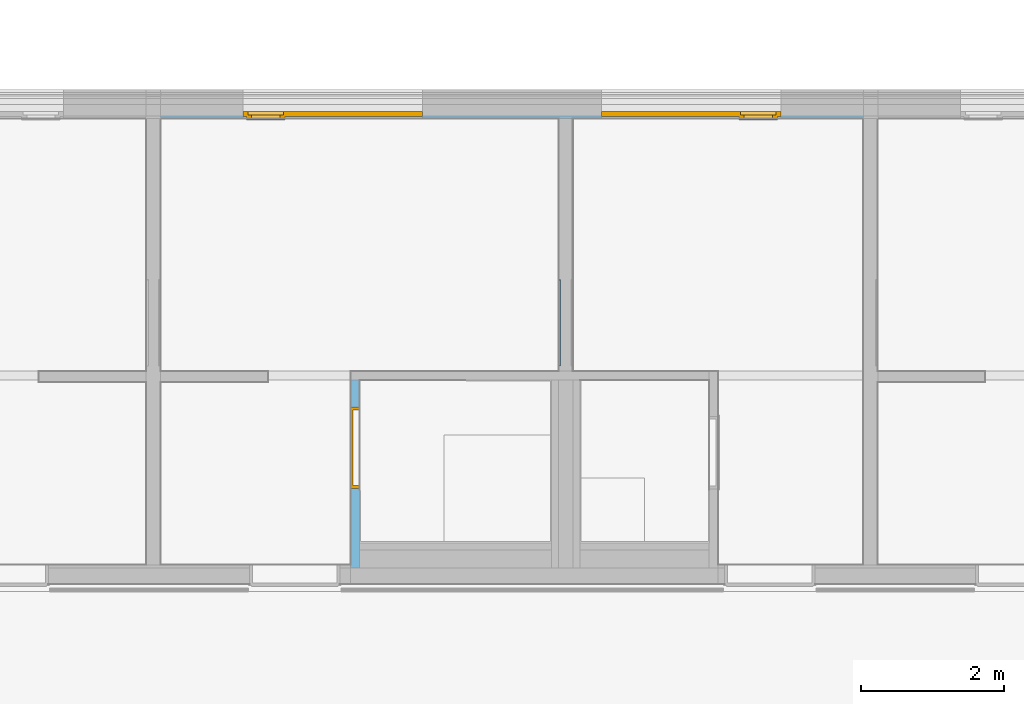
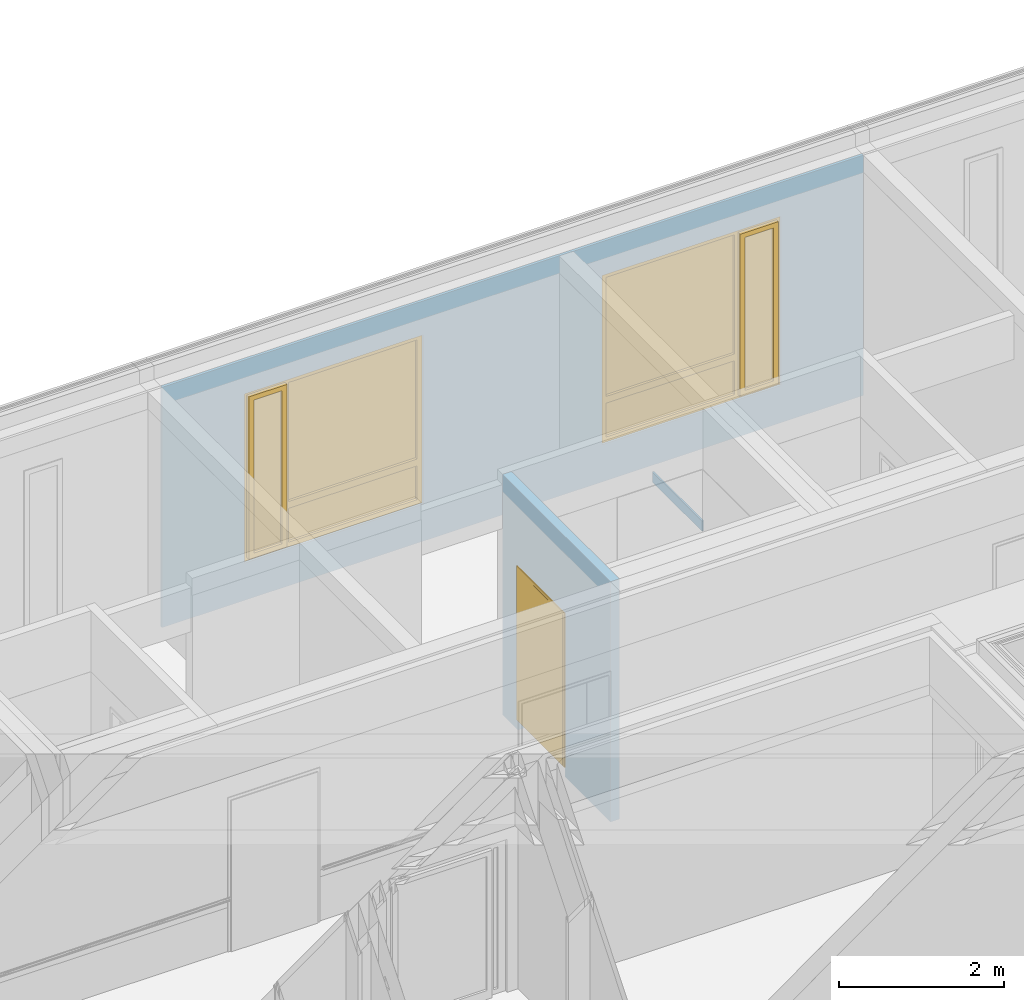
# One storey, part 101 of 222: 2 windows, 1 door, 1 wall, 3 openings, plus 2 elements that do not belong to this part.
"""IFC4 building model written with IfcOpenShell, lengths in metres."""

from ifc_helpers import new_model, entity, si_unit, converted_unit, derived_unit, frame, frame_2d, origin, origin_with_axes, place, context, subcontext, project, spatial, polyline, rectangle, outline, extrude, closed_shell, open_shell, faceted_brep, surface_model, source, transform, mapped, material, type_object, element, fill, save


model = new_model("IFC4")

# Units and contexts
model_context = context("Model", 3, precision=1e-05, world=origin())
body_context = subcontext(model_context, "Body", "Model", "MODEL_VIEW")
ifc_project = project(units=[si_unit("LENGTHUNIT", "METRE"), si_unit("AREAUNIT", "SQUARE_METRE"), si_unit("VOLUMEUNIT", "CUBIC_METRE"), si_unit("MASSUNIT", "GRAM", prefix="KILO"), converted_unit("PLANEANGLEUNIT", "DEGREE", entity("IfcPlaneAngleMeasure", 0.0174532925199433), si_unit("PLANEANGLEUNIT", "RADIAN"), dimensions=[0, 0, 0, 0, 0, 0, 0]), derived_unit("THERMALTRANSMITTANCEUNIT", [(si_unit("POWERUNIT", "WATT"), 1), (si_unit("THERMODYNAMICTEMPERATUREUNIT", "KELVIN"), -1), (si_unit("LENGTHUNIT", "METRE"), -2)]), derived_unit("VOLUMETRICFLOWRATEUNIT", [(si_unit("LENGTHUNIT", "METRE"), 3), (converted_unit("TIMEUNIT", "hour", entity("IfcTimeMeasure", 3600.0), si_unit("TIMEUNIT", "SECOND"), dimensions=[0, 0, 1, 0, 0, 0, 0]), -1), (si_unit("LENGTHUNIT", "METRE"), -1)])], contexts=[model_context])

# Site, building, storey
site_placement = place(None, origin())
site = spatial("IfcSite", under=ifc_project, at=site_placement, Name="Psychiatrie Neubau Wunstorf", CompositionType="ELEMENT")
building_placement = place(site_placement, origin())
building = spatial("IfcBuilding", under=site, at=building_placement, Name="Neubau H2 Stationsgebäude", CompositionType="ELEMENT")
storey_placement = place(building_placement, frame((0.0, 0.0, 3.6)))
storey = spatial("IfcBuildingStorey", under=building, at=storey_placement, Name="H2 Ebene +1", CompositionType="ELEMENT", Elevation=3.6)

# Wall, openings, windows
ifc_material_1 = material(Name="WA-LB")
wall_1_placement = place(storey_placement, frame((10.1, 30.614, 0.0)))
wall_1 = element("IfcWall", 1, at=wall_1_placement, inside=storey, material=ifc_material_1, context=body_context, shape_type="SweptSolid", body=[
    extrude(rectangle(XDim=9.8, YDim=0.036, at=frame_2d((4.9, 0.018), x_axis=(1.0, 0.0))), origin_with_axes(), (0.0, 0.0, 1.0), 3.55),
])
opening_1_placement = place(wall_1_placement, frame((1.15, 0.0, 0.55), z_axis=(0.0, 1.0, 0.0), x_axis=(0.0, 0.0, 1.0)))
opening_1 = element("IfcOpeningElement", 2, at=opening_1_placement, cuts=wall_1, Name="Fensteröffnung", ObjectType="Opening", context=body_context, shape_type="SweptSolid", body=[
    extrude(outline(polyline([(2.5, 2.5), (2.5, 0.0), (0.0, 0.0), (0.0, 2.5), (2.5, 2.5)])), origin_with_axes(), (0.0, 0.0, 1.0), 0.036),
])
opening_2_placement = place(wall_1_placement, frame((6.15, 0.0, 0.55), z_axis=(0.0, 1.0, 0.0), x_axis=(0.0, 0.0, 1.0)))
opening_2 = element("IfcOpeningElement", 3, at=opening_2_placement, cuts=wall_1, Name="Fensteröffnung", ObjectType="Opening", context=body_context, shape_type="SweptSolid", body=[
    extrude(outline(polyline([(2.5, 2.5), (2.5, 0.0), (0.0, 0.0), (0.0, 2.5), (2.5, 2.5)])), origin_with_axes(), (0.0, 0.0, 1.0), 0.036),
])
shared_shape_1 = source(origin_with_axes(), body_context, "Body", "SurfaceModel", [
    surface_model("IfcShellBasedSurfaceModel", [(0.0, 0.0, 2.5), (0.07, 0.0, 2.5), (0.07, 0.0, 0.0), (0.0, 0.0, 0.0), (0.0, 0.0699999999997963, 0.0), (0.07, 0.0699999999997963, 0.0), (0.07, 0.0699999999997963, 2.5), (0.0, 0.0699999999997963, 2.5)], [closed_shell([[[0, 1, 2, 3]], [[4, 5, 6, 7]], [[3, 4, 7, 0]], [[2, 5, 4, 3]], [[1, 6, 5, 2]], [[0, 7, 6, 1]]], orient=[[False], [False], [False], [False], [False], [False]])]),
    surface_model("IfcShellBasedSurfaceModel", [(2.43, 0.0, 2.5), (2.5, 0.0, 2.5), (2.5, 0.0, 0.0), (2.43, 0.0, 0.0), (2.43, 0.0699999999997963, 0.0), (2.5, 0.0699999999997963, 0.0), (2.5, 0.0699999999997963, 2.5), (2.43, 0.0699999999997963, 2.5)], [closed_shell([[[0, 1, 2, 3]], [[4, 5, 6, 7]], [[3, 4, 7, 0]], [[2, 5, 4, 3]], [[1, 6, 5, 2]], [[0, 7, 6, 1]]], orient=[[False], [False], [False], [False], [False], [False]])]),
    surface_model("IfcShellBasedSurfaceModel", [(0.07, 0.0, 0.07), (2.43, 0.0, 0.07), (2.43, 0.0, 0.0), (0.07, 0.0, 0.0), (0.07, 0.0699999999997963, 0.0), (2.43, 0.0699999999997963, 0.0), (2.43, 0.0699999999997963, 0.07), (0.07, 0.0699999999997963, 0.07)], [closed_shell([[[0, 1, 2, 3]], [[4, 5, 6, 7]], [[3, 4, 7, 0]], [[2, 5, 4, 3]], [[1, 6, 5, 2]], [[0, 7, 6, 1]]], orient=[[False], [False], [False], [False], [False], [False]])]),
    surface_model("IfcShellBasedSurfaceModel", [(0.07, 0.0, 2.5), (2.43, 0.0, 2.5), (2.43, 0.0, 2.43), (0.07, 0.0, 2.43), (0.07, 0.0699999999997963, 2.43), (2.43, 0.0699999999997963, 2.43), (2.43, 0.0699999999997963, 2.5), (0.07, 0.0699999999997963, 2.5)], [closed_shell([[[0, 1, 2, 3]], [[4, 5, 6, 7]], [[3, 4, 7, 0]], [[2, 5, 4, 3]], [[1, 6, 5, 2]], [[0, 7, 6, 1]]], orient=[[False], [False], [False], [False], [False], [False]])]),
    surface_model("IfcShellBasedSurfaceModel", [(0.565714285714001, 0.0, 2.43), (0.635714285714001, 0.0, 2.43), (0.635714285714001, 0.0, 0.07), (0.565714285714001, 0.0, 0.07), (0.565714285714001, 0.0699999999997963, 0.07), (0.635714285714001, 0.0699999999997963, 0.07), (0.635714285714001, 0.0699999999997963, 2.43), (0.565714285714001, 0.0699999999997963, 2.43)], [closed_shell([[[0, 1, 2, 3]], [[4, 5, 6, 7]], [[3, 4, 7, 0]], [[2, 5, 4, 3]], [[1, 6, 5, 2]], [[0, 7, 6, 1]]], orient=[[False], [False], [False], [False], [False], [False]])]),
    surface_model("IfcShellBasedSurfaceModel", [(0.05, -0.05, 2.45), (0.12, -0.05, 2.45), (0.12, -0.05, 0.05), (0.05, -0.05, 0.05), (0.05, 0.0199999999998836, 0.05), (0.12, 0.0199999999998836, 0.05), (0.12, 0.0199999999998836, 2.45), (0.05, 0.0199999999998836, 2.45)], [closed_shell([[[0, 1, 2, 3]], [[4, 5, 6, 7]], [[3, 4, 7, 0]], [[2, 5, 4, 3]], [[1, 6, 5, 2]], [[0, 7, 6, 1]]], orient=[[False], [False], [False], [False], [False], [False]])]),
    surface_model("IfcShellBasedSurfaceModel", [(0.515714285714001, -0.05, 2.45), (0.585714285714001, -0.05, 2.45), (0.585714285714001, -0.05, 0.05), (0.515714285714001, -0.05, 0.05), (0.515714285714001, 0.0199999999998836, 0.05), (0.585714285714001, 0.0199999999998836, 0.05), (0.585714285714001, 0.0199999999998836, 2.45), (0.515714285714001, 0.0199999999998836, 2.45)], [closed_shell([[[0, 1, 2, 3]], [[4, 5, 6, 7]], [[3, 4, 7, 0]], [[2, 5, 4, 3]], [[1, 6, 5, 2]], [[0, 7, 6, 1]]], orient=[[False], [False], [False], [False], [False], [False]])]),
    surface_model("IfcShellBasedSurfaceModel", [(0.12, -0.05, 0.12), (0.515714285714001, -0.05, 0.12), (0.515714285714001, -0.05, 0.05), (0.12, -0.05, 0.05), (0.12, 0.0199999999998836, 0.05), (0.515714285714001, 0.0199999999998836, 0.05), (0.515714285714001, 0.0199999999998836, 0.12), (0.12, 0.0199999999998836, 0.12)], [closed_shell([[[0, 1, 2, 3]], [[4, 5, 6, 7]], [[3, 4, 7, 0]], [[2, 5, 4, 3]], [[1, 6, 5, 2]], [[0, 7, 6, 1]]], orient=[[False], [False], [False], [False], [False], [False]])]),
    surface_model("IfcShellBasedSurfaceModel", [(0.12, -0.05, 2.45), (0.515714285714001, -0.05, 2.45), (0.515714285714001, -0.05, 2.38), (0.12, -0.05, 2.38), (0.12, 0.0199999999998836, 2.38), (0.515714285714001, 0.0199999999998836, 2.38), (0.515714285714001, 0.0199999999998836, 2.45), (0.12, 0.0199999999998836, 2.45)], [closed_shell([[[0, 1, 2, 3]], [[4, 5, 6, 7]], [[3, 4, 7, 0]], [[2, 5, 4, 3]], [[1, 6, 5, 2]], [[0, 7, 6, 1]]], orient=[[False], [False], [False], [False], [False], [False]])]),
    surface_model("IfcShellBasedSurfaceModel", [(0.635714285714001, 0.0, 0.67), (2.43, 0.0, 0.67), (2.43, 0.0, 0.57), (0.635714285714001, 0.0, 0.57), (0.635714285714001, 0.0699999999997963, 0.57), (2.43, 0.0699999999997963, 0.57), (2.43, 0.0699999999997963, 0.67), (0.635714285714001, 0.0699999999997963, 0.67)], [closed_shell([[[0, 1, 2, 3]], [[4, 5, 6, 7]], [[3, 4, 7, 0]], [[2, 5, 4, 3]], [[1, 6, 5, 2]], [[0, 7, 6, 1]]], orient=[[False], [False], [False], [False], [False], [False]])]),
    surface_model("IfcShellBasedSurfaceModel", [(0.12, -0.0150000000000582, 0.12), (0.12, -0.0150000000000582, 2.38), (0.515714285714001, -0.0150000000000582, 2.38), (0.515714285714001, -0.0150000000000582, 0.12)], [open_shell([[[0, 1, 2, 3]]], orient=[[False]])]),
    surface_model("IfcShellBasedSurfaceModel", [(0.635714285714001, 0.0349999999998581, 0.07), (0.635714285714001, 0.0349999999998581, 0.57), (2.43, 0.0349999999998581, 0.57), (2.43, 0.0349999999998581, 0.07)], [open_shell([[[0, 1, 2, 3]]], orient=[[False]])]),
    surface_model("IfcShellBasedSurfaceModel", [(0.635714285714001, 0.0349999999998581, 0.67), (0.635714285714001, 0.0349999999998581, 2.43), (2.43, 0.0349999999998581, 2.43), (2.43, 0.0349999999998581, 0.67)], [open_shell([[[0, 1, 2, 3]]], orient=[[False]])]),
])
window_1_placement = place(opening_1_placement, frame((0.0, 0.0, 0.03), z_axis=(1.0, 0.0, 0.0), x_axis=(0.0, 1.0, 0.0)))
window_1 = element("IfcWindow", 4, at=window_1_placement, inside=storey, Name="Fenster", OverallHeight=2.5, OverallWidth=2.5, PartitioningType="USERDEFINED", PredefinedType="WINDOW", context=body_context, shape_type="MappedRepresentation", body=[
    mapped(shared_shape_1, transform((0.0, 0.0, 0.0), x_axis=(1.0, 0.0, 0.0), y_axis=(0.0, 1.0, 0.0), z_axis=(0.0, 0.0, 1.0), scale=1.0)),
])
fill(opening_1, window_1)
shared_shape_2 = source(origin_with_axes(), body_context, "Body", "SurfaceModel", [
    surface_model("IfcShellBasedSurfaceModel", [(2.5, 0.0, 2.5), (2.5, 0.0, 0.0), (2.43, 0.0, 0.0), (2.43, 0.0, 2.5), (2.5, 0.0699999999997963, 0.0), (2.5, 0.0699999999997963, 2.5), (2.43, 0.0699999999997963, 2.5), (2.43, 0.0699999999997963, 0.0)], [closed_shell([[[0, 1, 2, 3]], [[4, 5, 6, 7]], [[1, 0, 5, 4]], [[2, 1, 4, 7]], [[3, 2, 7, 6]], [[0, 3, 6, 5]]], orient=[[False], [False], [False], [False], [False], [False]])]),
    surface_model("IfcShellBasedSurfaceModel", [(0.07, 0.0, 2.5), (0.07, 0.0, 0.0), (0.0, 0.0, 0.0), (0.0, 0.0, 2.5), (0.07, 0.0699999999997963, 0.0), (0.07, 0.0699999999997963, 2.5), (0.0, 0.0699999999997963, 2.5), (0.0, 0.0699999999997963, 0.0)], [closed_shell([[[0, 1, 2, 3]], [[4, 5, 6, 7]], [[1, 0, 5, 4]], [[2, 1, 4, 7]], [[3, 2, 7, 6]], [[0, 3, 6, 5]]], orient=[[False], [False], [False], [False], [False], [False]])]),
    surface_model("IfcShellBasedSurfaceModel", [(2.43, 0.0, 0.07), (2.43, 0.0, 0.0), (0.07, 0.0, 0.0), (0.07, 0.0, 0.07), (2.43, 0.0699999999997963, 0.0), (2.43, 0.0699999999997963, 0.07), (0.07, 0.0699999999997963, 0.07), (0.07, 0.0699999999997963, 0.0)], [closed_shell([[[0, 1, 2, 3]], [[4, 5, 6, 7]], [[1, 0, 5, 4]], [[2, 1, 4, 7]], [[3, 2, 7, 6]], [[0, 3, 6, 5]]], orient=[[False], [False], [False], [False], [False], [False]])]),
    surface_model("IfcShellBasedSurfaceModel", [(2.43, 0.0, 2.5), (2.43, 0.0, 2.43), (0.07, 0.0, 2.43), (0.07, 0.0, 2.5), (2.43, 0.0699999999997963, 2.43), (2.43, 0.0699999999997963, 2.5), (0.07, 0.0699999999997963, 2.5), (0.07, 0.0699999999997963, 2.43)], [closed_shell([[[0, 1, 2, 3]], [[4, 5, 6, 7]], [[1, 0, 5, 4]], [[2, 1, 4, 7]], [[3, 2, 7, 6]], [[0, 3, 6, 5]]], orient=[[False], [False], [False], [False], [False], [False]])]),
    surface_model("IfcShellBasedSurfaceModel", [(1.934285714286, 0.0, 2.43), (1.934285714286, 0.0, 0.07), (1.864285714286, 0.0, 0.07), (1.864285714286, 0.0, 2.43), (1.934285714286, 0.0699999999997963, 0.07), (1.934285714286, 0.0699999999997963, 2.43), (1.864285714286, 0.0699999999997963, 2.43), (1.864285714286, 0.0699999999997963, 0.07)], [closed_shell([[[0, 1, 2, 3]], [[4, 5, 6, 7]], [[1, 0, 5, 4]], [[2, 1, 4, 7]], [[3, 2, 7, 6]], [[0, 3, 6, 5]]], orient=[[False], [False], [False], [False], [False], [False]])]),
    surface_model("IfcShellBasedSurfaceModel", [(2.45, -0.05, 2.45), (2.45, -0.05, 0.05), (2.38, -0.05, 0.05), (2.38, -0.05, 2.45), (2.45, 0.0199999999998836, 0.05), (2.45, 0.0199999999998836, 2.45), (2.38, 0.0199999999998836, 2.45), (2.38, 0.0199999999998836, 0.05)], [closed_shell([[[0, 1, 2, 3]], [[4, 5, 6, 7]], [[1, 0, 5, 4]], [[2, 1, 4, 7]], [[3, 2, 7, 6]], [[0, 3, 6, 5]]], orient=[[False], [False], [False], [False], [False], [False]])]),
    surface_model("IfcShellBasedSurfaceModel", [(1.984285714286, -0.05, 2.45), (1.984285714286, -0.05, 0.05), (1.914285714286, -0.05, 0.05), (1.914285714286, -0.05, 2.45), (1.984285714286, 0.0199999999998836, 0.05), (1.984285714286, 0.0199999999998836, 2.45), (1.914285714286, 0.0199999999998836, 2.45), (1.914285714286, 0.0199999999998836, 0.05)], [closed_shell([[[0, 1, 2, 3]], [[4, 5, 6, 7]], [[1, 0, 5, 4]], [[2, 1, 4, 7]], [[3, 2, 7, 6]], [[0, 3, 6, 5]]], orient=[[False], [False], [False], [False], [False], [False]])]),
    surface_model("IfcShellBasedSurfaceModel", [(2.38, -0.05, 0.12), (2.38, -0.05, 0.05), (1.984285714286, -0.05, 0.05), (1.984285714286, -0.05, 0.12), (2.38, 0.0199999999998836, 0.05), (2.38, 0.0199999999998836, 0.12), (1.984285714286, 0.0199999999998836, 0.12), (1.984285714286, 0.0199999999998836, 0.05)], [closed_shell([[[0, 1, 2, 3]], [[4, 5, 6, 7]], [[1, 0, 5, 4]], [[2, 1, 4, 7]], [[3, 2, 7, 6]], [[0, 3, 6, 5]]], orient=[[False], [False], [False], [False], [False], [False]])]),
    surface_model("IfcShellBasedSurfaceModel", [(2.38, -0.05, 2.45), (2.38, -0.05, 2.38), (1.984285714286, -0.05, 2.38), (1.984285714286, -0.05, 2.45), (2.38, 0.0199999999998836, 2.38), (2.38, 0.0199999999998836, 2.45), (1.984285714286, 0.0199999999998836, 2.45), (1.984285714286, 0.0199999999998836, 2.38)], [closed_shell([[[0, 1, 2, 3]], [[4, 5, 6, 7]], [[1, 0, 5, 4]], [[2, 1, 4, 7]], [[3, 2, 7, 6]], [[0, 3, 6, 5]]], orient=[[False], [False], [False], [False], [False], [False]])]),
    surface_model("IfcShellBasedSurfaceModel", [(1.864285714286, 0.0, 0.67), (1.864285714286, 0.0, 0.57), (0.07, 0.0, 0.57), (0.07, 0.0, 0.67), (1.864285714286, 0.0699999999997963, 0.57), (1.864285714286, 0.0699999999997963, 0.67), (0.07, 0.0699999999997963, 0.67), (0.07, 0.0699999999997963, 0.57)], [closed_shell([[[0, 1, 2, 3]], [[4, 5, 6, 7]], [[1, 0, 5, 4]], [[2, 1, 4, 7]], [[3, 2, 7, 6]], [[0, 3, 6, 5]]], orient=[[False], [False], [False], [False], [False], [False]])]),
    surface_model("IfcShellBasedSurfaceModel", [(2.38, -0.0150000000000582, 0.12), (1.984285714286, -0.0150000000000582, 0.12), (1.984285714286, -0.0150000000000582, 2.38), (2.38, -0.0150000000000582, 2.38)], [open_shell([[[0, 1, 2, 3]]], orient=[[False]])]),
    surface_model("IfcShellBasedSurfaceModel", [(1.864285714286, 0.0349999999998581, 0.07), (0.07, 0.0349999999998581, 0.07), (0.07, 0.0349999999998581, 0.57), (1.864285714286, 0.0349999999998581, 0.57)], [open_shell([[[0, 1, 2, 3]]], orient=[[False]])]),
    surface_model("IfcShellBasedSurfaceModel", [(1.864285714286, 0.0349999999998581, 0.67), (0.07, 0.0349999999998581, 0.67), (0.07, 0.0349999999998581, 2.43), (1.864285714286, 0.0349999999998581, 2.43)], [open_shell([[[0, 1, 2, 3]]], orient=[[False]])]),
])
window_2_placement = place(opening_2_placement, frame((0.0, 0.0, 0.03), z_axis=(1.0, 0.0, 0.0), x_axis=(0.0, 1.0, 0.0)))
window_2 = element("IfcWindow", 5, at=window_2_placement, inside=storey, Name="Fenster", OverallHeight=2.5, OverallWidth=2.5, PartitioningType="USERDEFINED", PredefinedType="WINDOW", context=body_context, shape_type="MappedRepresentation", body=[
    mapped(shared_shape_2, transform((0.0, 0.0, 0.0), x_axis=(1.0, 0.0, 0.0), y_axis=(0.0, 1.0, 0.0), z_axis=(0.0, 0.0, 1.0), scale=1.0)),
])
fill(opening_2, window_2)

# Wall, opening, door
ifc_material_2 = material(Name="WI-LB")
wall_2_placement = place(storey_placement, frame((12.875, 24.3495, 0.0), z_axis=(0.0, 0.0, 1.0), x_axis=(0.0, 1.0, 0.0)))
wall_2 = element("IfcWall", 6, at=wall_2_placement, inside=storey, material=ifc_material_2, context=body_context, shape_type="SweptSolid", body=[
    extrude(rectangle(XDim=2.61499999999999, YDim=0.125, at=frame_2d((1.3075, 0.0625), x_axis=(1.0, 0.0))), origin_with_axes(), (0.0, 0.0, 1.0), 3.55),
])
opening_3_placement = place(wall_2_placement, frame((1.10499999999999, 0.0, 0.0), z_axis=(0.0, 1.0, 0.0), x_axis=(0.0, 0.0, 1.0)))
opening_3 = element("IfcOpeningElement", 7, at=opening_3_placement, cuts=wall_2, Name="Türöffnung", ObjectType="Opening", context=body_context, shape_type="SweptSolid", body=[
    extrude(outline(polyline([(2.41, 1.135), (2.41, 0.0), (0.0, 0.0), (0.0, 1.135), (2.41, 1.135)])), origin_with_axes(), (0.0, 0.0, 1.0), 0.125),
])
ifc_material_3 = material(Name="TI-1F-UZ-D-N")
door_type = type_object("IfcDoorType", Name="SMT", OperationType="SINGLE_SWING_RIGHT", ParameterTakesPrecedence=False, PredefinedType="DOOR")
shared_shape_3 = source(origin_with_axes(), body_context, "Body", "Brep", [
    faceted_brep([(1.18499999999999, 0.0125000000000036, 0.0), (1.18499999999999, 0.112500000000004, 0.0), (1.13499999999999, 0.112500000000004, 0.0), (1.13499999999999, 0.0125000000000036, 0.0), (1.18499999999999, 0.112500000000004, 3.55), (1.18499999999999, 0.0125000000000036, 3.55), (1.13499999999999, 0.0125000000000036, 3.55), (1.13499999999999, 0.112500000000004, 3.55)], [[[0, 1, 2, 3]], [[4, 5, 6, 7]], [[1, 0, 5, 4]], [[2, 1, 4, 7]], [[3, 2, 7, 6]], [[0, 3, 6, 5]]], orient=[[False], [False], [False], [False], [False], [False]]),
    faceted_brep([(0.0, 0.0125000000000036, 0.0), (0.0, 0.112500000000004, 0.0), (-0.0500000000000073, 0.112500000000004, 0.0), (-0.0500000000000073, 0.0125000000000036, 0.0), (0.0, 0.112500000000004, 3.55), (0.0, 0.0125000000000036, 3.55), (-0.0500000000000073, 0.0125000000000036, 3.55), (-0.0500000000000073, 0.112500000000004, 3.55)], [[[0, 1, 2, 3]], [[4, 5, 6, 7]], [[1, 0, 5, 4]], [[2, 1, 4, 7]], [[3, 2, 7, 6]], [[0, 3, 6, 5]]], orient=[[False], [False], [False], [False], [False], [False]]),
    faceted_brep([(1.13499999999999, 0.0125000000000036, 2.41), (1.13499999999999, 0.112500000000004, 2.41), (0.0, 0.112500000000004, 2.41), (0.0, 0.0125000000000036, 2.41), (1.13499999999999, 0.112500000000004, 2.46), (1.13499999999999, 0.0125000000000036, 2.46), (0.0, 0.0125000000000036, 2.46), (0.0, 0.112500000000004, 2.46)], [[[0, 1, 2, 3]], [[4, 5, 6, 7]], [[1, 0, 5, 4]], [[2, 1, 4, 7]], [[3, 2, 7, 6]], [[0, 3, 6, 5]]], orient=[[False], [False], [False], [False], [False], [False]]),
])
shared_shape_4 = source(origin_with_axes(), body_context, "Body", "Brep", [
    faceted_brep([(0.0, -0.0149999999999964, 2.41), (0.0399999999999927, -0.0149999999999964, 2.41), (0.0399999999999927, -0.0149999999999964, 0.15), (0.0, -0.0149999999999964, 0.15), (0.0, 0.140000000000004, 0.15), (0.0399999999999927, 0.140000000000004, 0.15), (0.0399999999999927, 0.140000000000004, 2.41), (0.0, 0.140000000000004, 2.41)], [[[0, 1, 2, 3]], [[4, 5, 6, 7]], [[3, 4, 7, 0]], [[2, 5, 4, 3]], [[1, 6, 5, 2]], [[0, 7, 6, 1]]], orient=[[False], [False], [False], [False], [False], [False]]),
    faceted_brep([(0.0, -0.0149999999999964, 2.425), (0.0, -0.0149999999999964, 0.15), (-0.0150000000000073, -0.0149999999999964, 0.15), (-0.0150000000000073, -0.0149999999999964, 2.425), (0.0, 0.0, 0.15), (0.0, 0.0, 2.425), (-0.0150000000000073, 0.0, 2.425), (-0.0150000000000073, 0.0, 0.15)], [[[0, 1, 2, 3]], [[4, 5, 6, 7]], [[1, 0, 5, 4]], [[2, 1, 4, 7]], [[3, 2, 7, 6]], [[0, 3, 6, 5]]], orient=[[False], [False], [False], [False], [False], [False]]),
    faceted_brep([(0.0, 0.125000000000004, 2.425), (0.0, 0.125000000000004, 0.15), (-0.0150000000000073, 0.125000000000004, 0.15), (-0.0150000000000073, 0.125000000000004, 2.425), (0.0, 0.140000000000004, 0.15), (0.0, 0.140000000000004, 2.425), (-0.0150000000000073, 0.140000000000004, 2.425), (-0.0150000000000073, 0.140000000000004, 0.15)], [[[0, 1, 2, 3]], [[4, 5, 6, 7]], [[1, 0, 5, 4]], [[2, 1, 4, 7]], [[3, 2, 7, 6]], [[0, 3, 6, 5]]], orient=[[False], [False], [False], [False], [False], [False]]),
    faceted_brep([(1.09499999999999, -0.0149999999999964, 2.41), (1.13499999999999, -0.0149999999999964, 2.41), (1.13499999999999, -0.0149999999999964, 0.15), (1.09499999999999, -0.0149999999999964, 0.15), (1.09499999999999, 0.140000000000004, 0.15), (1.13499999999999, 0.140000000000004, 0.15), (1.13499999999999, 0.140000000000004, 2.41), (1.09499999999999, 0.140000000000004, 2.41)], [[[0, 1, 2, 3]], [[4, 5, 6, 7]], [[3, 4, 7, 0]], [[2, 5, 4, 3]], [[1, 6, 5, 2]], [[0, 7, 6, 1]]], orient=[[False], [False], [False], [False], [False], [False]]),
    faceted_brep([(1.13499999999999, -0.0149999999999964, 2.425), (1.14999999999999, -0.0149999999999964, 2.425), (1.14999999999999, -0.0149999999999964, 0.15), (1.13499999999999, -0.0149999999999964, 0.15), (1.13499999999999, 0.0, 0.15), (1.14999999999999, 0.0, 0.15), (1.14999999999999, 0.0, 2.425), (1.13499999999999, 0.0, 2.425)], [[[0, 1, 2, 3]], [[4, 5, 6, 7]], [[3, 4, 7, 0]], [[2, 5, 4, 3]], [[1, 6, 5, 2]], [[0, 7, 6, 1]]], orient=[[False], [False], [False], [False], [False], [False]]),
    faceted_brep([(1.13499999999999, 0.125000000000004, 2.425), (1.14999999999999, 0.125000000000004, 2.425), (1.14999999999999, 0.125000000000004, 0.15), (1.13499999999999, 0.125000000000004, 0.15), (1.13499999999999, 0.140000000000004, 0.15), (1.14999999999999, 0.140000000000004, 0.15), (1.14999999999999, 0.140000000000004, 2.425), (1.13499999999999, 0.140000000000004, 2.425)], [[[0, 1, 2, 3]], [[4, 5, 6, 7]], [[3, 4, 7, 0]], [[2, 5, 4, 3]], [[1, 6, 5, 2]], [[0, 7, 6, 1]]], orient=[[False], [False], [False], [False], [False], [False]]),
    faceted_brep([(0.0399999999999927, -0.0149999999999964, 2.41), (1.09499999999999, -0.0149999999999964, 2.41), (1.09499999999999, -0.0149999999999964, 2.37), (0.0399999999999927, -0.0149999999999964, 2.37), (0.0399999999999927, 0.140000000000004, 2.37), (1.09499999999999, 0.140000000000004, 2.37), (1.09499999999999, 0.140000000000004, 2.41), (0.0399999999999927, 0.140000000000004, 2.41)], [[[0, 1, 2, 3]], [[4, 5, 6, 7]], [[3, 4, 7, 0]], [[2, 5, 4, 3]], [[1, 6, 5, 2]], [[0, 7, 6, 1]]], orient=[[False], [False], [False], [False], [False], [False]]),
    faceted_brep([(0.0, -0.0149999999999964, 2.425), (1.13499999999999, -0.0149999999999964, 2.425), (1.13499999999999, -0.0149999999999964, 2.41), (0.0, -0.0149999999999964, 2.41), (0.0, 0.0, 2.41), (1.13499999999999, 0.0, 2.41), (1.13499999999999, 0.0, 2.425), (0.0, 0.0, 2.425)], [[[0, 1, 2, 3]], [[4, 5, 6, 7]], [[3, 4, 7, 0]], [[2, 5, 4, 3]], [[1, 6, 5, 2]], [[0, 7, 6, 1]]], orient=[[False], [False], [False], [False], [False], [False]]),
    faceted_brep([(0.0, 0.125000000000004, 2.425), (1.13499999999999, 0.125000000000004, 2.425), (1.13499999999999, 0.125000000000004, 2.41), (0.0, 0.125000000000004, 2.41), (0.0, 0.140000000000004, 2.41), (1.13499999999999, 0.140000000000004, 2.41), (1.13499999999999, 0.140000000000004, 2.425), (0.0, 0.140000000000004, 2.425)], [[[0, 1, 2, 3]], [[4, 5, 6, 7]], [[3, 4, 7, 0]], [[2, 5, 4, 3]], [[1, 6, 5, 2]], [[0, 7, 6, 1]]], orient=[[False], [False], [False], [False], [False], [False]]),
    faceted_brep([(0.0249999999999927, 0.0910000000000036, 2.385), (1.10999999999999, 0.0910000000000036, 2.385), (1.10999999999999, 0.0910000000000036, 0.15), (0.0249999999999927, 0.0910000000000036, 0.15), (0.0249999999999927, 0.141000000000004, 0.15), (1.10999999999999, 0.141000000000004, 0.15), (1.10999999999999, 0.141000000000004, 2.385), (0.0249999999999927, 0.141000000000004, 2.385)], [[[0, 1, 2, 3]], [[4, 5, 6, 7]], [[3, 4, 7, 0]], [[2, 5, 4, 3]], [[1, 6, 5, 2]], [[0, 7, 6, 1]]], orient=[[False], [False], [False], [False], [False], [False]]),
])
door_placement = place(opening_3_placement, frame((0.0, 0.0, 0.0), z_axis=(1.0, 0.0, 0.0), x_axis=(0.0, 1.0, 0.0)))
door = element("IfcDoor", 8, at=door_placement, inside=storey, type_object=door_type, material=ifc_material_3, Name="SMT", OverallHeight=2.41, OverallWidth=1.135, context=body_context, shape_type="MappedRepresentation", body=[
    mapped(shared_shape_3, transform((0.0, 0.0, 0.0), x_axis=(1.0, 0.0, 0.0), y_axis=(0.0, 1.0, 0.0), z_axis=(0.0, 0.0, 1.0), scale=1.0)),
    mapped(shared_shape_4, transform((0.0, 0.0, 0.0), x_axis=(1.0, 0.0, 0.0), y_axis=(0.0, 1.0, 0.0), z_axis=(0.0, 0.0, 1.0), scale=1.0)),
])
fill(opening_3, door)

# Wall
wall_3_placement = place(storey_placement, frame((15.65, 27.1628367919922, 1.575)))
element("IfcWall", 9, at=wall_3_placement, inside=storey, Name="WV 1.1", context=body_context, shape_type="Brep", body=[
    faceted_brep([(0.025, 1.2, 0.0), (0.0, 1.2, 0.0), (0.0, 0.0, 0.0), (0.025, 0.0, 0.0), (0.0, 1.2, 0.15), (0.025, 1.2, 0.15), (0.025, 0.0, 0.15), (0.0, 0.0, 0.15)], [[[0, 1, 2, 3]], [[4, 5, 6, 7]], [[1, 0, 5, 4]], [[2, 1, 4, 7]], [[3, 2, 7, 6]], [[0, 3, 6, 5]]], orient=[[False], [False], [False], [False], [False], [False]]),
])

save(model, "model.ifc")
